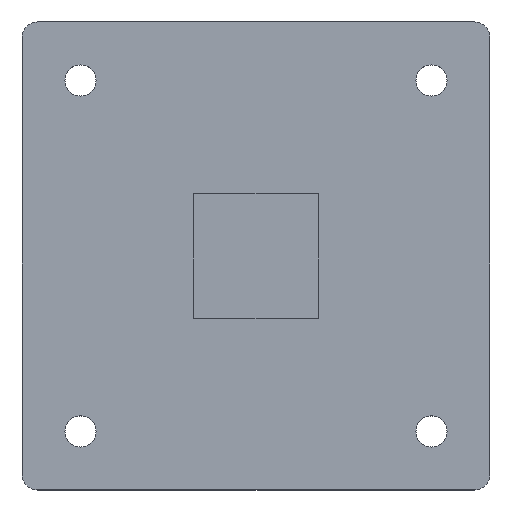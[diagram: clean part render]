
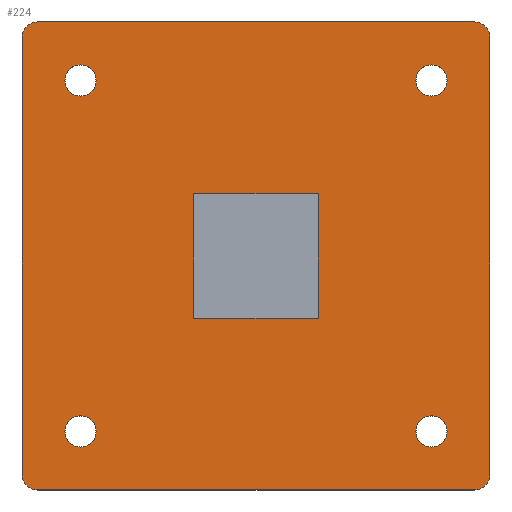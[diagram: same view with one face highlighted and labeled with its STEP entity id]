
A CAD part, top view. The second image highlights one B-rep face of the part: STEP entity #224.
In plain terms, the highlighted planar face has unit normal (0, 0, 1).
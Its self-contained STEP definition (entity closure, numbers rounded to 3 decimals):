
#208 = EDGE_CURVE( '', #236, #366, #576, .T. );
#224 = ADVANCED_FACE( '', ( #595, #596, #597, #598, #599, #600 ), #601, .T. );
#230 = EDGE_CURVE( '', #260, #236, #607, .T. );
#234 = EDGE_CURVE( '', #428, #390, #612, .T. );
#236 = VERTEX_POINT( '', #614 );
#238 = EDGE_CURVE( '', #282, #260, #616, .T. );
#246 = VERTEX_POINT( '', #625 );
#260 = VERTEX_POINT( '', #641 );
#262 = VERTEX_POINT( '', #643 );
#266 = EDGE_CURVE( '', #246, #288, #647, .T. );
#272 = EDGE_CURVE( '', #300, #282, #653, .T. );
#280 = EDGE_CURVE( '', #314, #300, #661, .T. );
#282 = VERTEX_POINT( '', #663 );
#288 = VERTEX_POINT( '', #669 );
#300 = VERTEX_POINT( '', #683 );
#302 = EDGE_CURVE( '', #424, #376, #685, .T. );
#314 = VERTEX_POINT( '', #700 );
#326 = EDGE_CURVE( '', #328, #314, #712, .T. );
#328 = VERTEX_POINT( '', #714 );
#330 = EDGE_CURVE( '', #354, #328, #716, .T. );
#342 = EDGE_CURVE( '', #366, #354, #728, .T. );
#354 = VERTEX_POINT( '', #741 );
#366 = VERTEX_POINT( '', #761 );
#374 = EDGE_CURVE( '', #390, #428, #770, .T. );
#376 = VERTEX_POINT( '', #772 );
#386 = EDGE_CURVE( '', #376, #424, #784, .T. );
#390 = VERTEX_POINT( '', #788 );
#396 = EDGE_CURVE( '', #262, #400, #795, .T. );
#400 = VERTEX_POINT( '', #799 );
#406 = EDGE_CURVE( '', #288, #246, #807, .T. );
#418 = EDGE_CURVE( '', #446, #530, #819, .T. );
#424 = VERTEX_POINT( '', #825 );
#428 = VERTEX_POINT( '', #829 );
#446 = VERTEX_POINT( '', #850 );
#448 = EDGE_CURVE( '', #482, #446, #852, .T. );
#480 = EDGE_CURVE( '', #532, #482, #889, .T. );
#482 = VERTEX_POINT( '', #891 );
#524 = EDGE_CURVE( '', #530, #532, #939, .T. );
#530 = VERTEX_POINT( '', #945 );
#532 = VERTEX_POINT( '', #947 );
#544 = EDGE_CURVE( '', #400, #262, #960, .T. );
#576 = CIRCLE( '', #984, 2. );
#595 = FACE_BOUND( '', #1012, .T. );
#596 = FACE_OUTER_BOUND( '', #1013, .T. );
#597 = FACE_BOUND( '', #1014, .T. );
#598 = FACE_BOUND( '', #1015, .T. );
#599 = FACE_BOUND( '', #1016, .T. );
#600 = FACE_BOUND( '', #1017, .T. );
#601 = PLANE( '', #1018 );
#607 = LINE( '', #1026, #1027 );
#612 = CIRCLE( '', #1033, 2. );
#614 = CARTESIAN_POINT( '', ( -28., -30., 0. ) );
#616 = CIRCLE( '', #1038, 2. );
#625 = CARTESIAN_POINT( '', ( -24.5, 22.5, 0. ) );
#641 = CARTESIAN_POINT( '', ( 28., -30., 0. ) );
#643 = CARTESIAN_POINT( '', ( -20.5, -22.5, 0. ) );
#647 = CIRCLE( '', #1075, 2. );
#653 = LINE( '', #1085, #1086 );
#661 = CIRCLE( '', #1098, 2. );
#663 = CARTESIAN_POINT( '', ( 30., -28., 0. ) );
#669 = CARTESIAN_POINT( '', ( -20.5, 22.5, 0. ) );
#683 = CARTESIAN_POINT( '', ( 30., 28., 0. ) );
#685 = CIRCLE( '', #1126, 2. );
#700 = CARTESIAN_POINT( '', ( 28., 30., 0. ) );
#712 = LINE( '', #1166, #1167 );
#714 = CARTESIAN_POINT( '', ( -28., 30., 0. ) );
#716 = CIRCLE( '', #1172, 2. );
#728 = LINE( '', #1191, #1192 );
#741 = CARTESIAN_POINT( '', ( -30., 28., 0. ) );
#761 = CARTESIAN_POINT( '', ( -30., -28., 0. ) );
#770 = CIRCLE( '', #1240, 2. );
#772 = CARTESIAN_POINT( '', ( 24.5, 22.5, 0. ) );
#784 = CIRCLE( '', #1257, 2. );
#788 = CARTESIAN_POINT( '', ( 24.5, -22.5, 0. ) );
#795 = CIRCLE( '', #1273, 2. );
#799 = CARTESIAN_POINT( '', ( -24.5, -22.5, 0. ) );
#807 = CIRCLE( '', #1288, 2. );
#819 = LINE( '', #1305, #1306 );
#825 = CARTESIAN_POINT( '', ( 20.5, 22.5, 0. ) );
#829 = CARTESIAN_POINT( '', ( 20.5, -22.5, 0. ) );
#850 = CARTESIAN_POINT( '', ( 8., 8., 0. ) );
#852 = LINE( '', #1350, #1351 );
#889 = LINE( '', #1398, #1399 );
#891 = CARTESIAN_POINT( '', ( -8., 8., 0. ) );
#939 = LINE( '', #1462, #1463 );
#945 = CARTESIAN_POINT( '', ( 8., -8., 0. ) );
#947 = CARTESIAN_POINT( '', ( -8., -8., 0. ) );
#960 = CIRCLE( '', #1489, 2. );
#984 = AXIS2_PLACEMENT_3D( '', #1503, #1504, #1505 );
#1012 = EDGE_LOOP( '', ( #1532, #1533, #1534, #1535 ) );
#1013 = EDGE_LOOP( '', ( #1536, #1537, #1538, #1539, #1540, #1541, #1542, #1543 ) );
#1014 = EDGE_LOOP( '', ( #1544, #1545 ) );
#1015 = EDGE_LOOP( '', ( #1546, #1547 ) );
#1016 = EDGE_LOOP( '', ( #1548, #1549 ) );
#1017 = EDGE_LOOP( '', ( #1550, #1551 ) );
#1018 = AXIS2_PLACEMENT_3D( '', #1552, #1553, #1554 );
#1026 = CARTESIAN_POINT( '', ( -28., -30., 0. ) );
#1027 = VECTOR( '', #1558, 1. );
#1033 = AXIS2_PLACEMENT_3D( '', #1567, #1568, #1569 );
#1038 = AXIS2_PLACEMENT_3D( '', #1570, #1571, #1572 );
#1075 = AXIS2_PLACEMENT_3D( '', #1607, #1608, #1609 );
#1085 = CARTESIAN_POINT( '', ( 30., -28., 0. ) );
#1086 = VECTOR( '', #1614, 1. );
#1098 = AXIS2_PLACEMENT_3D( '', #1619, #1620, #1621 );
#1126 = AXIS2_PLACEMENT_3D( '', #1642, #1643, #1644 );
#1166 = CARTESIAN_POINT( '', ( 28., 30., 0. ) );
#1167 = VECTOR( '', #1675, 1. );
#1172 = AXIS2_PLACEMENT_3D( '', #1676, #1677, #1678 );
#1191 = CARTESIAN_POINT( '', ( -30., 28., 0. ) );
#1192 = VECTOR( '', #1682, 1. );
#1240 = AXIS2_PLACEMENT_3D( '', #1739, #1740, #1741 );
#1257 = AXIS2_PLACEMENT_3D( '', #1764, #1765, #1766 );
#1273 = AXIS2_PLACEMENT_3D( '', #1777, #1778, #1779 );
#1288 = AXIS2_PLACEMENT_3D( '', #1797, #1798, #1799 );
#1305 = CARTESIAN_POINT( '', ( 8., 4., 0. ) );
#1306 = VECTOR( '', #1807, 1. );
#1350 = CARTESIAN_POINT( '', ( -4., 8., 0. ) );
#1351 = VECTOR( '', #1842, 1. );
#1398 = CARTESIAN_POINT( '', ( -8., -4., 0. ) );
#1399 = VECTOR( '', #1891, 1. );
#1462 = CARTESIAN_POINT( '', ( 4., -8., 0. ) );
#1463 = VECTOR( '', #1948, 1. );
#1489 = AXIS2_PLACEMENT_3D( '', #1964, #1965, #1966 );
#1503 = CARTESIAN_POINT( '', ( -28., -28., 0. ) );
#1504 = DIRECTION( '', ( 0., 0., -1. ) );
#1505 = DIRECTION( '', ( -1., 0., 0. ) );
#1532 = ORIENTED_EDGE( '', *, *, #448, .T. );
#1533 = ORIENTED_EDGE( '', *, *, #418, .T. );
#1534 = ORIENTED_EDGE( '', *, *, #524, .T. );
#1535 = ORIENTED_EDGE( '', *, *, #480, .T. );
#1536 = ORIENTED_EDGE( '', *, *, #342, .F. );
#1537 = ORIENTED_EDGE( '', *, *, #208, .F. );
#1538 = ORIENTED_EDGE( '', *, *, #230, .F. );
#1539 = ORIENTED_EDGE( '', *, *, #238, .F. );
#1540 = ORIENTED_EDGE( '', *, *, #272, .F. );
#1541 = ORIENTED_EDGE( '', *, *, #280, .F. );
#1542 = ORIENTED_EDGE( '', *, *, #326, .F. );
#1543 = ORIENTED_EDGE( '', *, *, #330, .F. );
#1544 = ORIENTED_EDGE( '', *, *, #374, .F. );
#1545 = ORIENTED_EDGE( '', *, *, #234, .F. );
#1546 = ORIENTED_EDGE( '', *, *, #386, .F. );
#1547 = ORIENTED_EDGE( '', *, *, #302, .F. );
#1548 = ORIENTED_EDGE( '', *, *, #396, .F. );
#1549 = ORIENTED_EDGE( '', *, *, #544, .F. );
#1550 = ORIENTED_EDGE( '', *, *, #406, .F. );
#1551 = ORIENTED_EDGE( '', *, *, #266, .F. );
#1552 = CARTESIAN_POINT( '', ( 0., 0., 0. ) );
#1553 = DIRECTION( '', ( 0., 0., 1. ) );
#1554 = DIRECTION( '', ( 1., 0., 0. ) );
#1558 = DIRECTION( '', ( -1., 0., 0. ) );
#1567 = CARTESIAN_POINT( '', ( 22.5, -22.5, 0. ) );
#1568 = DIRECTION( '', ( 0., 0., 1. ) );
#1569 = DIRECTION( '', ( 1., 0., 0. ) );
#1570 = CARTESIAN_POINT( '', ( 28., -28., 0. ) );
#1571 = DIRECTION( '', ( 0., 0., -1. ) );
#1572 = DIRECTION( '', ( 0., -1., 0. ) );
#1607 = CARTESIAN_POINT( '', ( -22.5, 22.5, 0. ) );
#1608 = DIRECTION( '', ( 0., 0., 1. ) );
#1609 = DIRECTION( '', ( 1., 0., 0. ) );
#1614 = DIRECTION( '', ( 0., -1., 0. ) );
#1619 = CARTESIAN_POINT( '', ( 28., 28., 0. ) );
#1620 = DIRECTION( '', ( 0., 0., -1. ) );
#1621 = DIRECTION( '', ( 1., 0., 0. ) );
#1642 = CARTESIAN_POINT( '', ( 22.5, 22.5, 0. ) );
#1643 = DIRECTION( '', ( 0., 0., 1. ) );
#1644 = DIRECTION( '', ( 1., 0., 0. ) );
#1675 = DIRECTION( '', ( 1., 0., 0. ) );
#1676 = CARTESIAN_POINT( '', ( -28., 28., 0. ) );
#1677 = DIRECTION( '', ( 0., 0., -1. ) );
#1678 = DIRECTION( '', ( 0., 1., 0. ) );
#1682 = DIRECTION( '', ( 0., 1., 0. ) );
#1739 = CARTESIAN_POINT( '', ( 22.5, -22.5, 0. ) );
#1740 = DIRECTION( '', ( 0., 0., 1. ) );
#1741 = DIRECTION( '', ( 1., 0., 0. ) );
#1764 = CARTESIAN_POINT( '', ( 22.5, 22.5, 0. ) );
#1765 = DIRECTION( '', ( 0., 0., 1. ) );
#1766 = DIRECTION( '', ( 1., 0., 0. ) );
#1777 = CARTESIAN_POINT( '', ( -22.5, -22.5, 0. ) );
#1778 = DIRECTION( '', ( 0., 0., 1. ) );
#1779 = DIRECTION( '', ( 1., 0., 0. ) );
#1797 = CARTESIAN_POINT( '', ( -22.5, 22.5, 0. ) );
#1798 = DIRECTION( '', ( 0., 0., 1. ) );
#1799 = DIRECTION( '', ( 1., 0., 0. ) );
#1807 = DIRECTION( '', ( 0., -1., 0. ) );
#1842 = DIRECTION( '', ( 1., 0., 0. ) );
#1891 = DIRECTION( '', ( 0., 1., 0. ) );
#1948 = DIRECTION( '', ( -1., 0., 0. ) );
#1964 = CARTESIAN_POINT( '', ( -22.5, -22.5, 0. ) );
#1965 = DIRECTION( '', ( 0., 0., 1. ) );
#1966 = DIRECTION( '', ( 1., 0., 0. ) );
